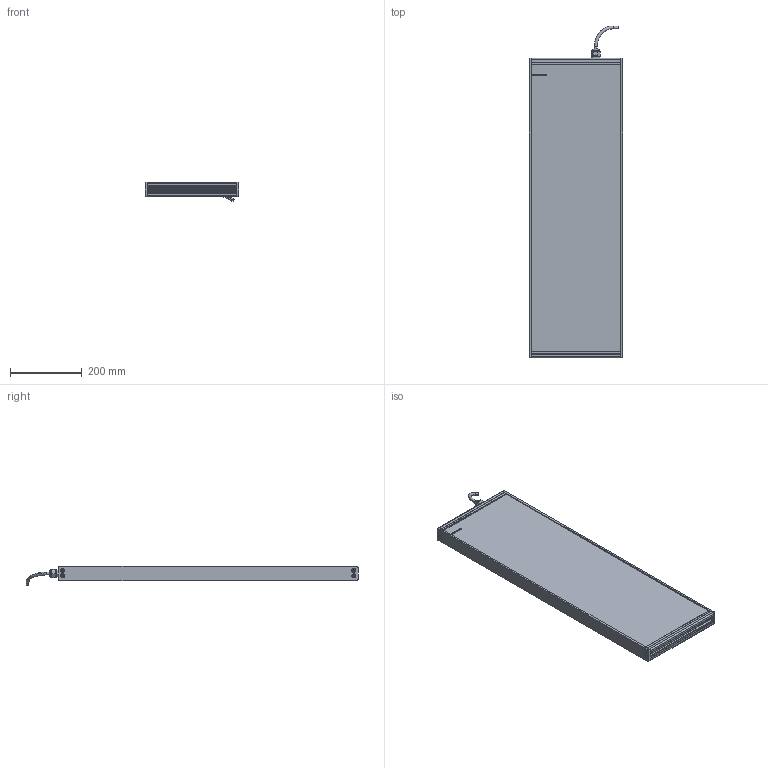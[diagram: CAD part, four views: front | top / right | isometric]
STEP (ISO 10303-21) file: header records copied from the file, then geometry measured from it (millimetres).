
FILE_DESCRIPTION (( 'STEP AP214' ), '1' );
FILE_NAME ('EFFI-BL-250T-800-1M12P.STEP', '2021-06-28T09:17:36', ( '' ), ( '' ), 'SwSTEP 2.0', 'SolidWorks 2021', '' );
FILE_SCHEMA (( 'AUTOMOTIVE_DESIGN' ));
Length unit declared in the file: millimetre
Products named in the file (7): profile modif_lg 99.5 mm; M12 power; 003776; Pièce2^EFFI-BL-XXXT-YYY + M12P; bord fin modif_lg 436.5 mm; EFFI-BL-250T-800-1M12P
Assembly tree (14 placements, depth 2):
  EFFI-BL-250T-800-1M12P
    profile modif_lg 99.5 mm
    bord fin modif_lg 436.5 mm  x2
    Pièce2^EFFI-BL-XXXT-YYY + M12P
    profile modif_lg 99.5 mm
    M12 power
    003776  x8
Bounding box: 260 x 926.45 x 53.92 mm (x, y, z)
Volume: 7536943.6 mm3; surface area: 706840.1 mm2
Topology: 13 solids, 16 shells, 569 faces, 1446 edges, 927 vertices
Faces by surface type: plane 327, bspline 125, cylinder 95, cone 18, torus 4
Entity records: 15286 total; most frequent: CARTESIAN_POINT 5076, ORIENTED_EDGE 2024, DIRECTION 1720, EDGE_CURVE 1014, LINE 756, VECTOR 756, VERTEX_POINT 670, AXIS2_PLACEMENT_3D 482
